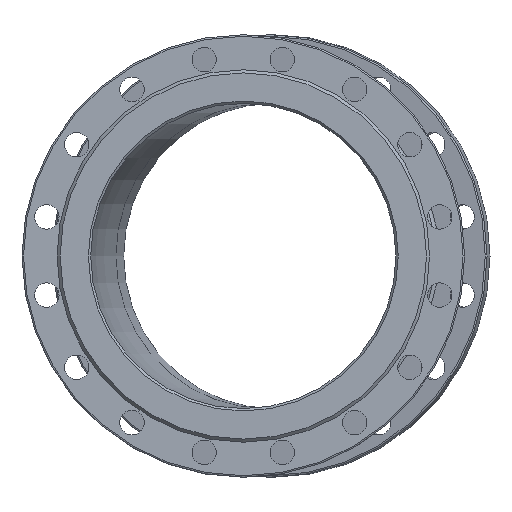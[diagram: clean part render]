
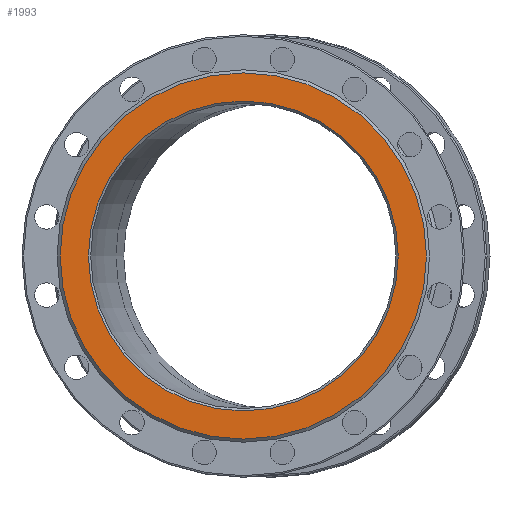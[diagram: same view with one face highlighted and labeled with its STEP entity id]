
A CAD part, left-side view. The second image highlights one B-rep face of the part: STEP entity #1993.
In plain terms, the highlighted planar face has unit normal (-1, 0, 0).
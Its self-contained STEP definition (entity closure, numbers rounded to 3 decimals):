
#74 = EDGE_LOOP ( 'NONE', ( #1918 ) ) ;
#605 = AXIS2_PLACEMENT_3D ( 'NONE', #1920, #3092, #5001 ) ;
#1020 = EDGE_CURVE ( 'NONE', #4730, #4730, #3878, .T. ) ;
#1072 = EDGE_CURVE ( 'NONE', #2035, #2035, #2956, .T. ) ;
#1613 = PLANE ( 'NONE',  #605 ) ;
#1702 = DIRECTION ( 'NONE',  ( 0., 1., 0. ) ) ;
#1824 = DIRECTION ( 'NONE',  ( 0., 1., 0. ) ) ;
#1918 = ORIENTED_EDGE ( 'NONE', *, *, #1072, .T. ) ;
#1920 = CARTESIAN_POINT ( 'NONE',  ( -205., 0., 0. ) ) ;
#1993 = ADVANCED_FACE ( 'NONE', ( #2301, #2683 ), #1613, .F. ) ;
#2035 = VERTEX_POINT ( 'NONE', #4616 ) ;
#2038 = CARTESIAN_POINT ( 'NONE',  ( -205., 0., 0. ) ) ;
#2240 = AXIS2_PLACEMENT_3D ( 'NONE', #2038, #3953, #1702 ) ;
#2301 = FACE_BOUND ( 'NONE', #74, .T. ) ;
#2376 = ORIENTED_EDGE ( 'NONE', *, *, #1020, .F. ) ;
#2683 = FACE_OUTER_BOUND ( 'NONE', #2859, .T. ) ;
#2859 = EDGE_LOOP ( 'NONE', ( #2376 ) ) ;
#2956 = CIRCLE ( 'NONE', #3617, 203. ) ;
#3092 = DIRECTION ( 'NONE',  ( 1., 0., 0. ) ) ;
#3306 = CARTESIAN_POINT ( 'NONE',  ( -205., 0., 0. ) ) ;
#3617 = AXIS2_PLACEMENT_3D ( 'NONE', #3306, #3666, #1824 ) ;
#3666 = DIRECTION ( 'NONE',  ( 1., 0., 0. ) ) ;
#3878 = CIRCLE ( 'NONE', #2240, 240. ) ;
#3953 = DIRECTION ( 'NONE',  ( 1., 0., 0. ) ) ;
#3978 = CARTESIAN_POINT ( 'NONE',  ( -205., 240., 0. ) ) ;
#4616 = CARTESIAN_POINT ( 'NONE',  ( -205., 203., 0. ) ) ;
#4730 = VERTEX_POINT ( 'NONE', #3978 ) ;
#5001 = DIRECTION ( 'NONE',  ( 0., 1., 0. ) ) ;
